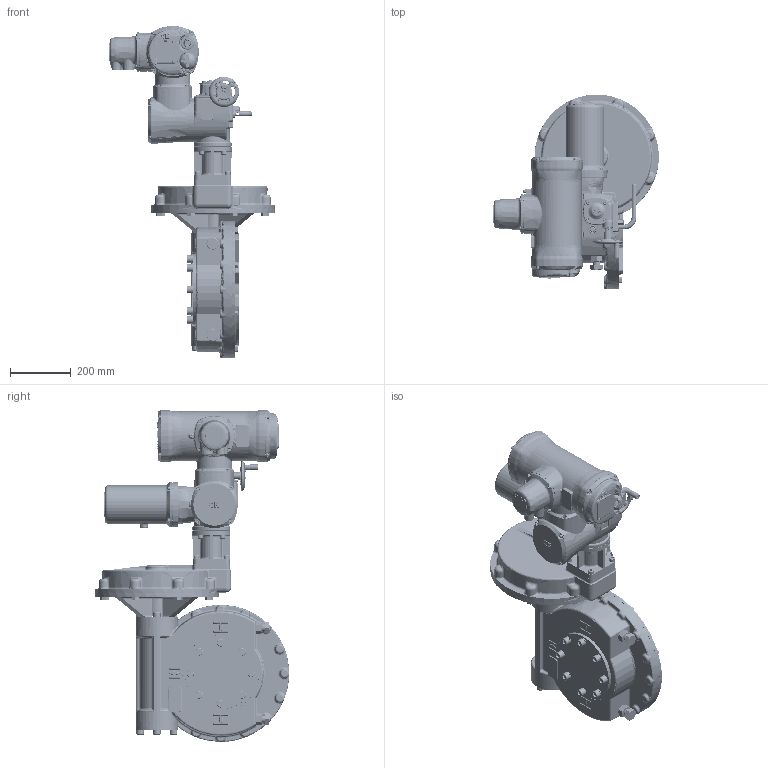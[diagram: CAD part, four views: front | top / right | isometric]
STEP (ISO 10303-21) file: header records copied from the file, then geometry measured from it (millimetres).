
FILE_DESCRIPTION(/* description */ ('Unknown'),/* implementation_level */ '2;1');
FILE_NAME(/* name */ 'A4W7RHB000X-1',/* time_stamp */ '2017-05-25T17:22:16+06:00',/* author */ ('Unknown'),/* organization */ ('Unknown'),/* preprocessor_version */ 'ST-DEVELOPER v16',/* originating_system */ 'DEX',/* authorisation */ $);
FILE_SCHEMA (('AUTOMOTIVE_DESIGN {1 0 10303 214 3 1 1}'));
Length unit declared in the file: millimetre
Products named in the file (1): A4W7RHB000
Bounding box: 543.67 x 638.63 x 1089.53 mm (x, y, z)
Volume: 1862740.9 mm3; surface area: 2560198.4 mm2
Topology: 4 solids, 155 shells, 14877 faces, 38086 edges, 23275 vertices
Faces by surface type: plane 4856, bspline 3901, cylinder 3484, torus 1229, cone 966, sphere 424, extrusion 17
Full cylindrical faces by diameter (mm): 0.6 x2, 1.152 x1, 2.387 x8, 2.459 x6, 2.6 x2, 2.621 x8, 3.2 x9, 3.242 x22, 4.134 x16, 4.2 x6, 4.4 x1, 4.5 x5, 4.917 x39, 5.5 x4, 6 x19, 6.47 x1, 6.5 x12, 6.6 x4, 6.647 x1, 7 x5, 8 x1, 8.2 x1, 10 x27, 10.22 x4, 11 x1, 11.92 x1, 12 x1, 13 x4, 13.5 x1, 14 x2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
Entity records: 699809 total; most frequent: CARTESIAN_POINT 297762, ORIENTED_EDGE 70408, DIRECTION 55563, EDGE_CURVE 36340, VERTEX_POINT 22902, AXIS2_PLACEMENT_3D 21320, FACE_BOUND 16626, EDGE_LOOP 16546
